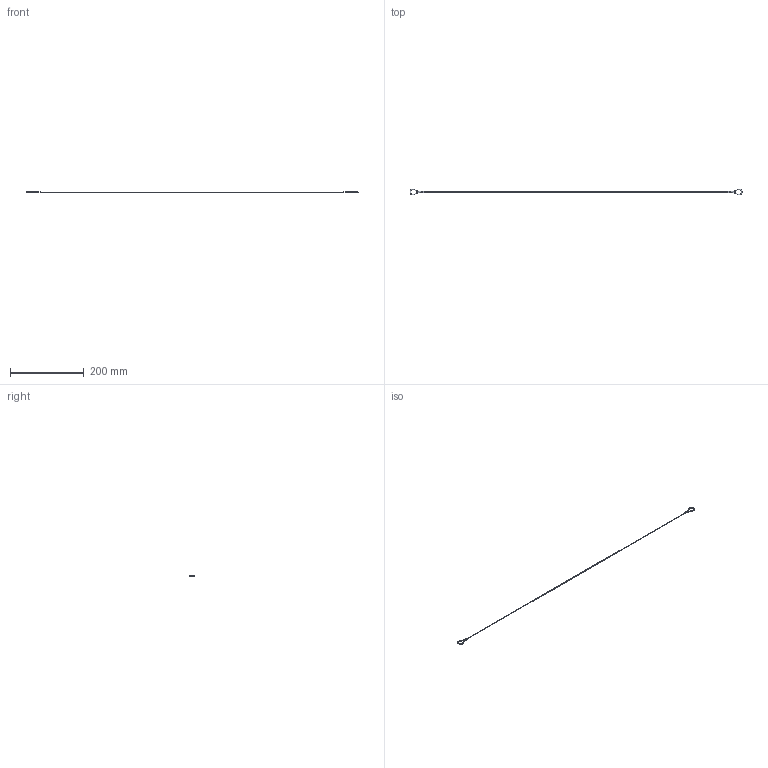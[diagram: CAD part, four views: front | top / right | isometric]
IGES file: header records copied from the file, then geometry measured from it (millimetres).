
Start section:  PTC IGES file: EB-935_19.igs
Global section: file name: EB-935_19.igs; native system: Creo Parametric by Parametric Technology Corporation; preprocessor: 2012360; author: xeon_1; organization: Unknown; date: 20130808.094417; units: millimetre
Bounding box: 899.94 x 15.97 x 2.5 mm (x, y, z)
Volume: 1821 mm3; surface area: 4731.5 mm2
Topology: 1 solids, 1 shells, 28 faces, 62 edges, 34 vertices
Faces by surface type: revolution 14, bspline 14
